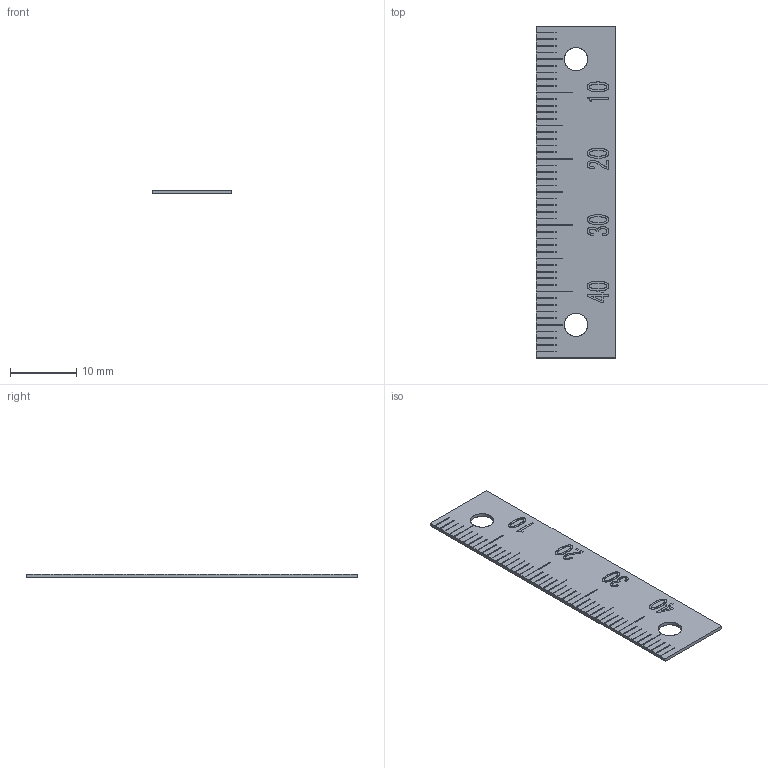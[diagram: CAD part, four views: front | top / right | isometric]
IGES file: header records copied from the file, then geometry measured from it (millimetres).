
Start section: SolidWorks IGES file using analytic representation for surfaces
Global section: file name: Y:\5.更新分\2023年対応\04xx_ALL\E\ES2N-U50L\es2n-u50l.IGS; native system: SolidWorks 2021; preprocessor: SolidWorks 2021; author: ImaoCorp; date: 230615.155015; units: millimetre
Bounding box: 12 x 50 x 0.5 mm (x, y, z)
Surface area: 1238.8 mm2 (no closed solid volume)
Topology: 0 solids, 0 shells, 348 faces, 3432 edges, 3432 vertices
Faces by surface type: bspline 344, revolution 4
